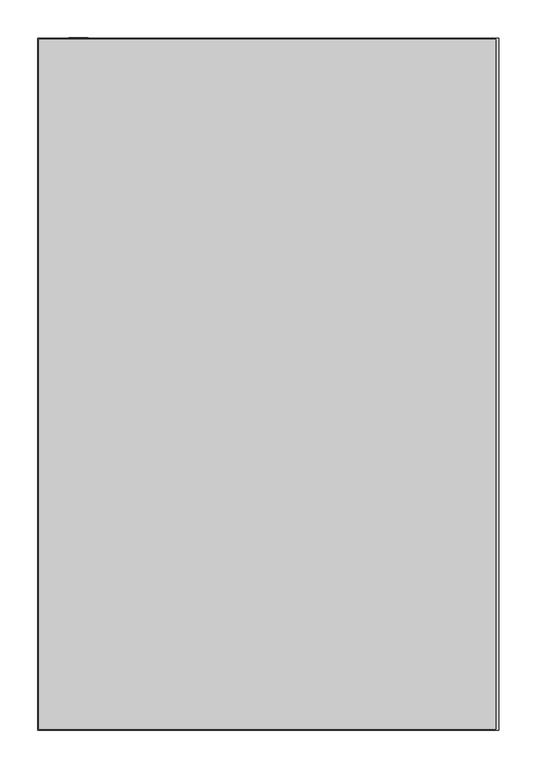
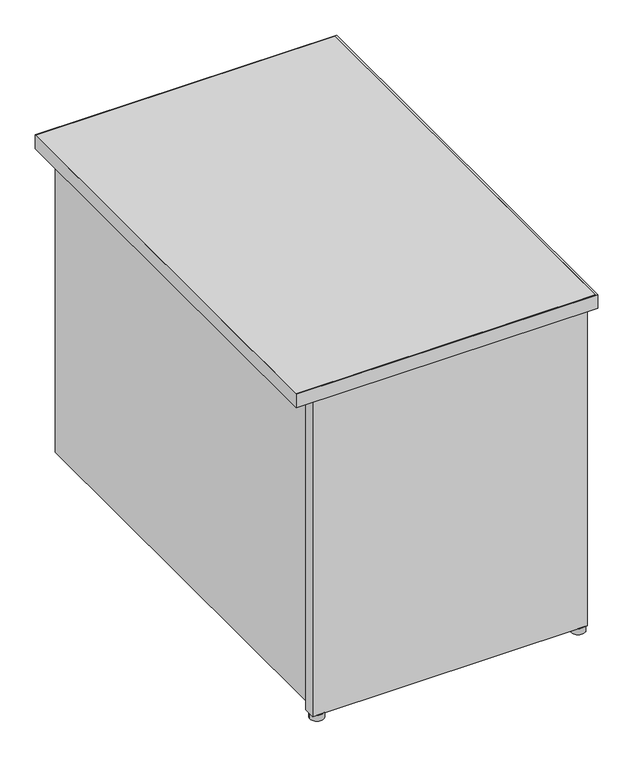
"""IFC4 building model written with IfcOpenShell, lengths in millimetres: furniture geometry, Steelcase - Kick Freestanding - Desk - Return - Full Height Modesty Panel : 24D x 36W - Left."""

from ifc_helpers import new_model, si_unit, point, frame, frame_2d, origin, origin_with_axes, place, context, project, spatial, polyline, circle_curve, trimmed, segment, composite_curve, outline, extrude, source, transform, mapped, element, save


def furniture_632d941c(model_context):
    return source(origin(), model_context, "Body", "SweptSolid", [
        extrude(outline(composite_curve([segment(trimmed(circle_curve(frame_2d((2220.2474425, -1435.8145152)), 13.97), [point((2206.2774425, -1435.8145152))], [point((2234.2174425, -1435.8145152))], False, "CARTESIAN"), True, "CONTINUOUS"), segment(trimmed(circle_curve(frame_2d((2220.2474425, -1435.8145152)), 13.97), [point((2234.2174425, -1435.8145152))], [point((2206.2774425, -1435.8145152))], False, "CARTESIAN"), True, "CONTINUOUS")], self_intersect=False)), origin_with_axes(), (0.0, 0.0, 1.0), 12.7),
        extrude(outline(composite_curve([segment(trimmed(circle_curve(frame_2d((2748.0594425, -1435.8145152)), 13.97), [point((2734.0894425, -1435.8145152))], [point((2762.0294425, -1435.8145152))], False, "CARTESIAN"), True, "CONTINUOUS"), segment(trimmed(circle_curve(frame_2d((2748.0594425, -1435.8145152)), 13.97), [point((2762.0294425, -1435.8145152))], [point((2734.0894425, -1435.8145152))], False, "CARTESIAN"), True, "CONTINUOUS")], self_intersect=False)), origin_with_axes(), (0.0, 0.0, 1.0), 12.7),
        extrude(outline(polyline([(2205.0074425, -1423.2669152), (2328.2736437, -1423.2669152), (2328.2736437, -1445.6951136), (2427.9940467, -1445.6951136), (2427.9940467, -1423.2669041), (2536.7314502, -1423.2669041), (2536.7314502, -1445.6951136), (2636.4518532, -1445.6951136), (2636.4518532, -1423.2669041), (2759.4894376, -1423.2669041), (2759.4894376, -1447.7525098), (2205.0074425, -1447.7525098), (2205.0074425, -1423.2669152)])), frame((0.0, 0.0, 12.7), z_axis=(0.0, 0.0, 1.0), x_axis=(1.0, 0.0, 0.0)), (0.0, 0.0, 1.0), 682.244),
        extrude(outline(polyline([(2230.4074426, -546.0525152), (2230.4074426, -1423.2669152), (2205.0074425, -1423.2669152), (2205.0074425, -546.0525152), (2230.4074426, -546.0525152)])), frame((0.0, 0.0, 31.242), z_axis=(0.0, 0.0, 1.0), x_axis=(1.0, 0.0, 0.0)), (0.0, 0.0, 1.0), 663.702),
        extrude(outline(polyline([(2769.2176592, -548.0845152), (2769.2176592, -1459.9445152), (2164.8500425, -1459.9445152), (2164.8500425, -548.0845152), (2769.2176592, -548.0845152)])), frame((0.0, 0.0, 694.944), z_axis=(0.0, 0.0, 1.0), x_axis=(1.0, 0.0, 0.0)), (0.0, 0.0, 1.0), 28.956),
        extrude(outline(polyline([(2773.4594425, -546.8145152), (2773.4594425, -1461.2145152), (2163.8594425, -1461.2145152), (2163.8594425, -546.8145152), (2773.4594425, -546.8145152)]), holes=[polyline([(2769.2176592, -548.0845152), (2164.8500425, -548.0845152), (2164.8500425, -1459.9445152), (2769.2176592, -1459.9445152), (2769.2176592, -548.0845152)])]), frame((0.0, 0.0, 694.944), z_axis=(0.0, 0.0, 1.0), x_axis=(1.0, 0.0, 0.0)), (0.0, 0.0, 1.0), 28.956),
    ])


if __name__ == "__main__":
    model = new_model("IFC4")
    model_context = context("Model", 3, world=origin())
    ifc_project = project(units=[si_unit("LENGTHUNIT", "METRE", prefix="MILLI")], contexts=[model_context])
    site = spatial("IfcSite", under=ifc_project)
    building = spatial("IfcBuilding", under=site)
    placement = place(None, origin())
    furniture_shape = furniture_632d941c(model_context)
    element("IfcFurniture", 1, ObjectType="Steelcase - Kick Freestanding - Desk - Return - Full Height Modesty Panel : 24D x 36W - Left", at=placement, inside=building, context=model_context, shape_type="MappedRepresentation", body=[
        mapped(furniture_shape, transform((0.0, 0.0, 0.0), x_axis=(1.0, 0.0, 0.0), y_axis=(0.0, 1.0, 0.0), z_axis=(0.0, 0.0, 1.0))),
    ])
    save(model, "model.ifc")
